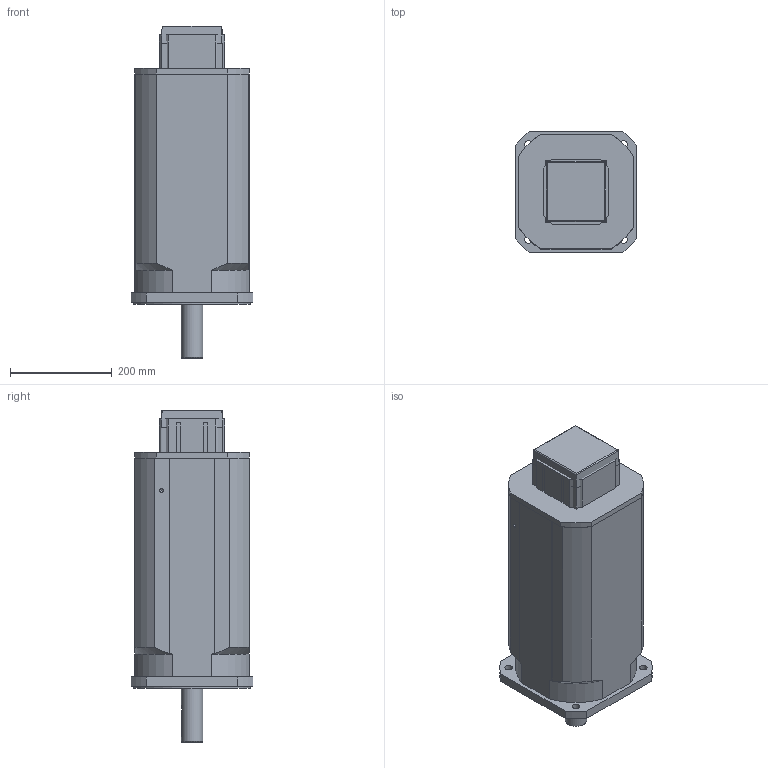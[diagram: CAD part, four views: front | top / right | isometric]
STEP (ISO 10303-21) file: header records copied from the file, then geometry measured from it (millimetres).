
FILE_DESCRIPTION(/* description */ ('Alibre Inc.'),/* implementation_level */ '2;1');
FILE_NAME(/* name */ 'export0',/* time_stamp */ '2011-10-26T14:16:28+02:00',/* author */ (''),/* organization */ (''),/* preprocessor_version */ 'ST-DEVELOPER v12',/* originating_system */ 'Alibre',/* authorisation */ '');
FILE_SCHEMA (('ALIBRE_SCHEMA','CONFIG_CONTROL_DESIGN'));
Length unit declared in the file: millimetre
Products named in the file (9): ID_1; ID_2
Bounding box: 240 x 240 x 653.5 mm (x, y, z)
Volume: 24195654.2 mm3; surface area: 759444.5 mm2
Topology: 8 solids, 8 shells, 275 faces, 708 edges, 460 vertices
Faces by surface type: plane 130, cylinder 111, torus 15, cone 14, bspline 5
Full cylindrical faces by diameter (mm): 2.7 x4, 6.647 x3, 10.106 x1, 15 x5, 20 x6, 22 x2, 25 x2, 26.75 x1, 30 x2, 42 x1, 45 x1, 230 x1
Entity records: 27376 total; most frequent: CARTESIAN_POINT 6539, DIRECTION 3214, ORIENTED_EDGE 3194, EDGE_CURVE 1597, AXIS2_PLACEMENT_3D 1311, VERTEX_POINT 1115, VECTOR 935, EDGE_LOOP 890
